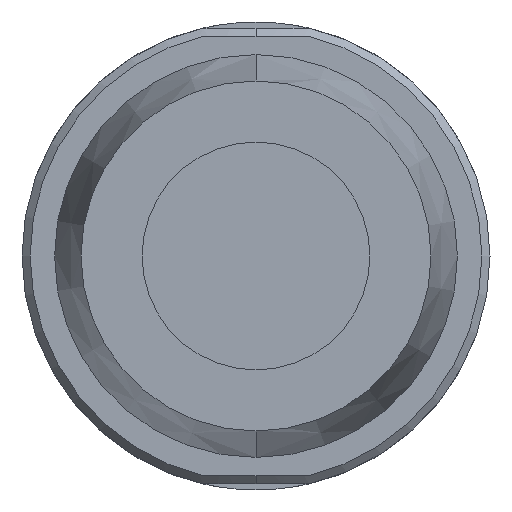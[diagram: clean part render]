
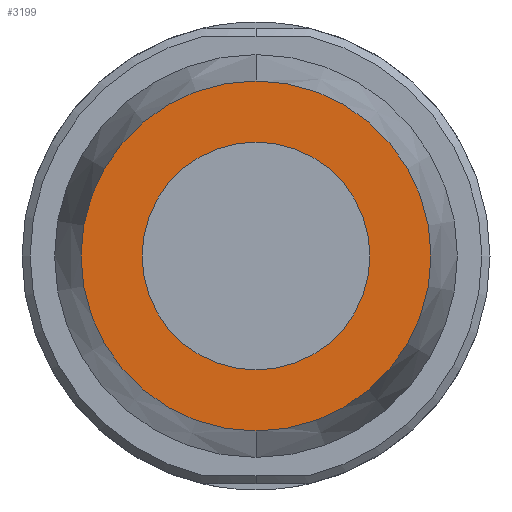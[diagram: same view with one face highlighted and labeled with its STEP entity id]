
A CAD part, left-side view. The second image highlights one B-rep face of the part: STEP entity #3199.
In plain terms, the highlighted planar face has unit normal (-1, 0, 0).
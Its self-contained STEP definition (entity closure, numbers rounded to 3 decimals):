
#978=CARTESIAN_POINT('',(0.,0.,0.));
#979=DIRECTION('',(1.,0.,0.));
#980=DIRECTION('',(0.,0.,1.));
#981=AXIS2_PLACEMENT_3D('',#978,#979,#980);
#986=CARTESIAN_POINT('',(0.,0.,0.));
#987=DIRECTION('',(1.,0.,0.));
#988=DIRECTION('',(0.,0.,-1.));
#989=AXIS2_PLACEMENT_3D('',#986,#987,#988);
#994=CARTESIAN_POINT('',(0.,0.,0.));
#995=DIRECTION('',(-1.,0.,0.));
#996=DIRECTION('',(0.,0.,1.));
#997=AXIS2_PLACEMENT_3D('',#994,#995,#996);
#1002=CARTESIAN_POINT('',(0.,0.,0.));
#1003=DIRECTION('',(-1.,0.,0.));
#1004=DIRECTION('',(0.,0.,-1.));
#1005=AXIS2_PLACEMENT_3D('',#1002,#1003,#1004);
#2242=CARTESIAN_POINT('',(0.,0.,4.3));
#2243=VERTEX_POINT('',#2242);
#2244=CARTESIAN_POINT('',(0.,0.,-4.3));
#2245=VERTEX_POINT('',#2244);
#2246=CARTESIAN_POINT('',(0.,0.,2.8));
#2247=CARTESIAN_POINT('',(0.,0.,-2.8));
#2248=VERTEX_POINT('',#2246);
#2249=VERTEX_POINT('',#2247);
#3184=CARTESIAN_POINT('',(0.,-4.73,4.73));
#3185=DIRECTION('',(-1.,0.,0.));
#3186=DIRECTION('',(0.,-1.,0.));
#3187=AXIS2_PLACEMENT_3D('',#3184,#3185,#3186);
#3188=PLANE('',#3187);
#3189=ORIENTED_EDGE('',*,*,#3164,.T.);
#3190=ORIENTED_EDGE('',*,*,#3178,.T.);
#3191=EDGE_LOOP('',(#3189,#3190));
#3192=FACE_OUTER_BOUND('',#3191,.F.);
#3194=ORIENTED_EDGE('',*,*,#3193,.T.);
#3196=ORIENTED_EDGE('',*,*,#3195,.T.);
#3197=EDGE_LOOP('',(#3194,#3196));
#3198=FACE_BOUND('',#3197,.F.);
#3199=ADVANCED_FACE('',(#3192,#3198),#3188,.T.);
#982=CIRCLE('',#981,4.3);
#990=CIRCLE('',#989,4.3);
#998=CIRCLE('',#997,2.8);
#1006=CIRCLE('',#1005,2.8);
#3164=EDGE_CURVE('',#2243,#2245,#982,.T.);
#3178=EDGE_CURVE('',#2245,#2243,#990,.T.);
#3193=EDGE_CURVE('',#2248,#2249,#998,.T.);
#3195=EDGE_CURVE('',#2249,#2248,#1006,.T.);
